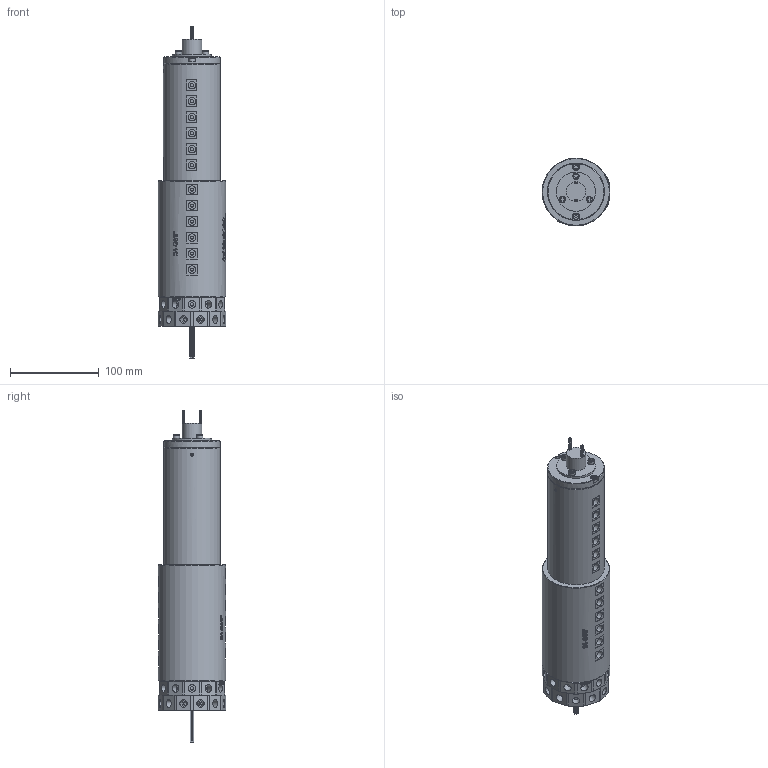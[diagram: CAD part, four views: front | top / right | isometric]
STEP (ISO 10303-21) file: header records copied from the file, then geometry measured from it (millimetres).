
FILE_DESCRIPTION(/* description */ (''),/* implementation_level */ '2;1');
FILE_NAME(/* name */ 'HQ2401-12M.stp',/* time_stamp */ '2025-09-23T13:42:41+08:00',/* author */ (''),/* organization */ (''),/* preprocessor_version */ 'ST-DEVELOPER v16.7',/* originating_system */ 'SIEMENS PLM Software NX 12.0',/* authorisation */ '');
FILE_SCHEMA (('AUTOMOTIVE_DESIGN { 1 0 10303 214 3 1 1 1 }'));
Products named in the file (1): Admi8A8072AE0vrr
Bounding box: 76.1 x 76 x 373.3 mm (x, y, z)
Volume: 1160772.5 mm3; surface area: 109327 mm2
Topology: 1 solids, 5 shells, 1375 faces, 3264 edges, 2169 vertices
Faces by surface type: plane 913, cylinder 328, extrusion 97, bspline 26, cone 6, torus 5
Full cylindrical faces by diameter (mm): 0.8 x24, 3.4 x8, 3.5 x24, 4 x51, 4.1 x24, 4.2 x24, 5.5 x3, 7 x5, 8 x1, 8.5 x48, 22 x2, 44 x1, 52 x1, 64 x2, 76 x1
Entity records: 48207 total; most frequent: CARTESIAN_POINT 18773, ORIENTED_EDGE 5746, DIRECTION 5642, EDGE_CURVE 2873, AXIS2_PLACEMENT_3D 2079, VERTEX_POINT 2040, EDGE_LOOP 1915, VECTOR 1484
